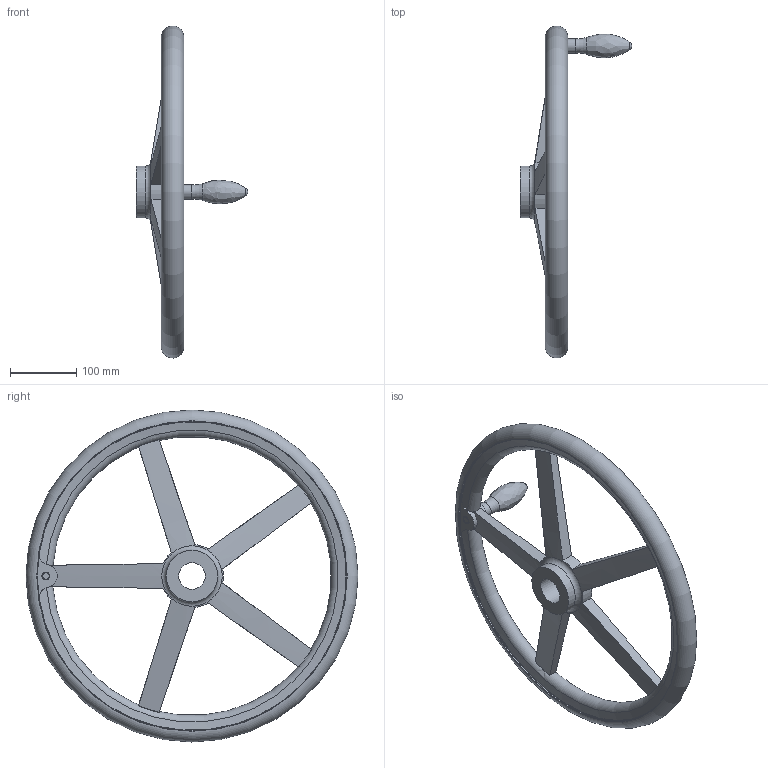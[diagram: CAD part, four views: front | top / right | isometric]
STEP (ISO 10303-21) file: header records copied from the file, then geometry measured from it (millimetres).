
FILE_DESCRIPTION( ( 'STEP AP203' ), '1' );
FILE_NAME( 'C:/Temp/Ganter_Step_05_03_2020/data/1_3/din_950/din_950_b/din_950_b_f/Handwheel DIN 950-AL-500-B40-F.stp', '2020-03-05T10:30:27', ( 'License CC BY-ND 4.0' ), ( 'CADENAS' ), ' ', 'PARTsolutions', ' ' );
FILE_SCHEMA( ( 'CONFIG_CONTROL_DESIGN' ) );
Length unit declared in the file: millimetre
Products named in the file (1): _Handwheel DIN 950-AL-500-B40-F
Bounding box: 168.5 x 499.91 x 499.91 mm (x, y, z)
Volume: 2134480.5 mm3; surface area: 288371.5 mm2
Topology: 1 solids, 1 shells, 61 faces, 179 edges, 115 vertices
Faces by surface type: torus 21, cylinder 18, plane 15, cone 5, bspline 1, sphere 1
Full cylindrical faces by diameter (mm): 12 x1, 21.8 x1, 40 x1, 78 x2, 466 x2
Entity records: 2495 total; most frequent: CARTESIAN_POINT 1011, ORIENTED_EDGE 306, DIRECTION 270, EDGE_CURVE 153, AXIS2_PLACEMENT_3D 128, VERTEX_POINT 111, EDGE_LOOP 88, FACE_OUTER_BOUND 77
